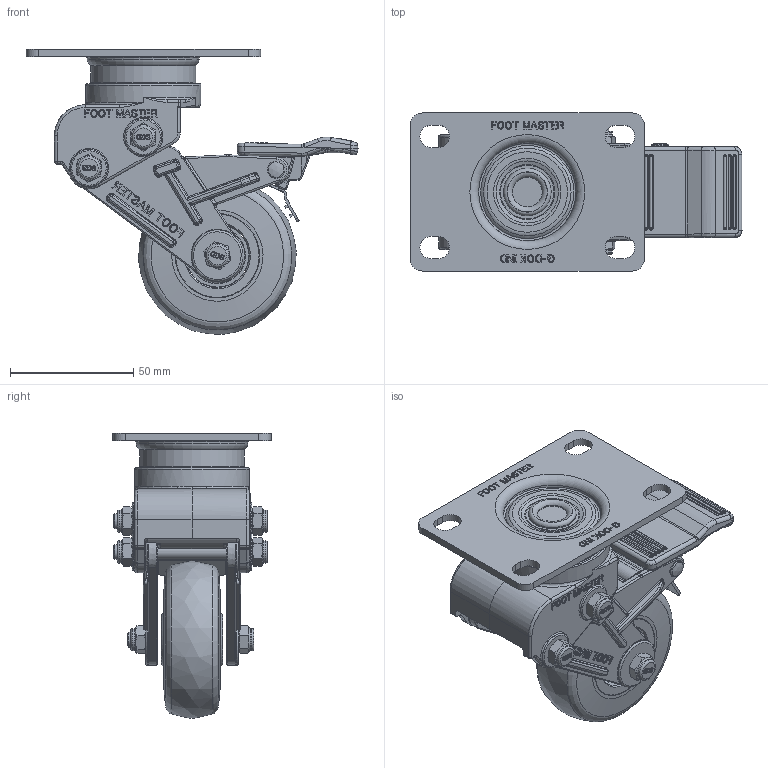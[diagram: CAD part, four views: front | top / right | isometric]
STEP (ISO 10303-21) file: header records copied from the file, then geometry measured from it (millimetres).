
FILE_DESCRIPTION(/* description */ (''),/* implementation_level */ '2;1');
FILE_NAME(/* name */ 'C:\Users\admin\Desktop\JYS\개발품\상세설계_20220328\홈페이지용 도면\GDS-65-BRF-EUS-PUS.stp',/* time_stamp */ '2023-03-08T15:57:56+09:00',/* author */ ('admin'),/* organization */ (''),/* preprocessor_version */ 'ST-DEVELOPER v18.1',/* originating_system */ 'Autodesk Inventor 2021',/* authorisation */ '');
FILE_SCHEMA (('AUTOMOTIVE_DESIGN { 1 0 10303 214 3 1 1 }'));
Products named in the file (1): GDS-65_BRF_(US)_REV01_Shrinkwrap_1
Bounding box: 134.46 x 64 x 115.48 mm (x, y, z)
Volume: 173435 mm3; surface area: 66653.7 mm2
Topology: 1 solids, 1 shells, 2676 faces, 6886 edges, 4312 vertices
Faces by surface type: plane 929, bspline 844, cylinder 542, cone 160, torus 149, sphere 52
Full cylindrical faces by diameter (mm): 2 x1, 4 x3, 6 x5, 7 x2, 8.8 x3, 9 x6, 12 x1, 17.216 x2, 18 x1, 19.3 x1, 20 x2, 22 x2, 22.784 x2, 42.5 x1, 46.5 x1
Entity records: 93620 total; most frequent: CARTESIAN_POINT 30392, ORIENTED_EDGE 13692, DIRECTION 10811, EDGE_CURVE 6846, VERTEX_POINT 4312, AXIS2_PLACEMENT_3D 3792, LINE 3227, VECTOR 3227
